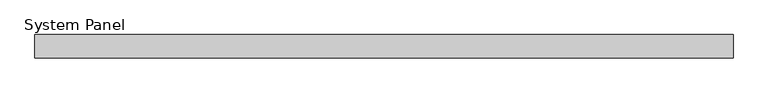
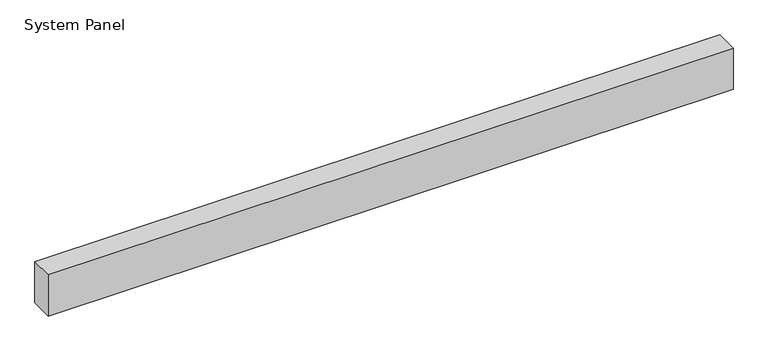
"""IFC4 building model written with IfcOpenShell, lengths in millimetres: plate geometry, System Panel : MetecnoPanel 200mm Horizontal - Plain Astro - PIR."""

from ifc_helpers import new_model, si_unit, origin, origin_with_axes, place, context, project, spatial, polyline, outline, extrude, source, transform, mapped, element, save


def system_panel_b559e272(model_context):
    return source(origin(), model_context, "Body", "SweptSolid", [
        extrude(outline(polyline([(2990.0, -200.0), (-2990.0, -200.0), (-2990.0, 0.0), (2990.0, 0.0), (2990.0, -200.0)])), origin_with_axes(), (0.0, 0.0, 1.0), 379.9704237),
    ])


if __name__ == "__main__":
    model = new_model("IFC4")
    model_context = context("Model", 3, world=origin())
    ifc_project = project(units=[si_unit("LENGTHUNIT", "METRE", prefix="MILLI")], contexts=[model_context])
    site = spatial("IfcSite", under=ifc_project)
    building = spatial("IfcBuilding", under=site)
    placement = place(None, origin())
    system_panel_shape = system_panel_b559e272(model_context)
    element("IfcPlate", 1, ObjectType="System Panel : MetecnoPanel 200mm Horizontal - Plain Astro - PIR", at=placement, inside=building, context=model_context, shape_type="MappedRepresentation", body=[
        mapped(system_panel_shape, transform((0.0, 0.0, 0.0), x_axis=(1.0, 0.0, 0.0), y_axis=(0.0, 1.0, 0.0), z_axis=(0.0, 0.0, 1.0))),
    ])
    save(model, "model.ifc")
